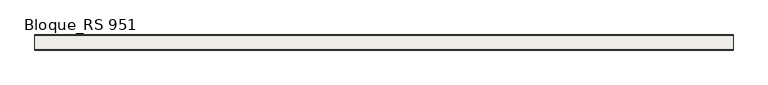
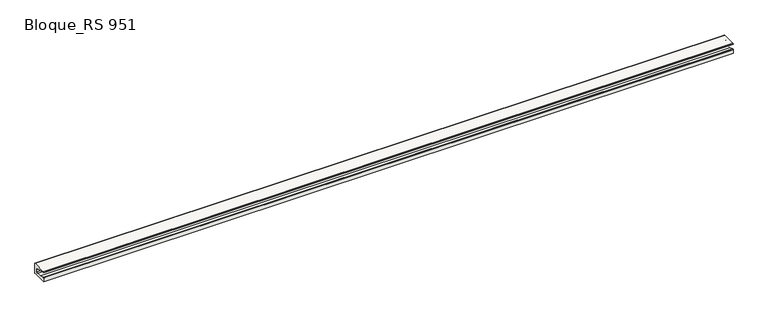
"""IFC4 building model written with IfcOpenShell, lengths in millimetres: slab geometry, ROSA GRES_RS 951 : Bloque_RS 951."""

import ifcopenshell
import ifcopenshell.guid

model = None  # the IFC model being written
_history = None  # IfcOwnerHistory: only IFC2X3 demands one
_inside = {}  # id of a spatial element -> (the spatial element, [elements in it])
_under = {}  # id of a project, library or spatial element -> (it, [spatial elements below it])
_declared = {}  # id of a project -> (the project, [libraries it declares])
_typed = {}  # id of a type object -> (the type object, [elements of that type])
_made_of = {}  # id of a material, layer set ... -> (it, [elements and type objects made of it])


def new_model(schema):
    """Start an empty IFC model of exactly this schema.

    Asked for "IFC4X3", IfcOpenShell would pick the latest addendum, in which some entities
    have other attributes; the version numbers below select the first issue.
    IFC2X3 requires an IfcOwnerHistory on every rooted entity: one is made here for all.
    """
    global model, _history
    if schema == "IFC4X3":
        model = ifcopenshell.file(schema_version=(4, 3, 0, 0))
    else:
        model = ifcopenshell.file(schema=schema)
    _inside.clear()
    _under.clear()
    _declared.clear()
    _typed.clear()
    _made_of.clear()
    _history = None
    if model.schema == "IFC2X3":
        org = make("IfcOrganization", Name="unknown")
        user = make(
            "IfcPersonAndOrganization",
            ThePerson=make("IfcPerson", FamilyName="unknown"),
            TheOrganization=org,
        )
        app = make(
            "IfcApplication",
            ApplicationDeveloper=org,
            Version="unknown",
            ApplicationFullName="unknown",
            ApplicationIdentifier="unknown",
        )
        _history = make(
            "IfcOwnerHistory",
            OwningUser=user,
            OwningApplication=app,
            ChangeAction="ADDED",
            CreationDate=0,
        )
    return model


def make(cls, **values):
    """One entity of the class cls with the attributes given. An attribute that is None is left unset."""
    return model.create_entity(
        cls, **{name: value for name, value in values.items() if value is not None}
    )


def rooted(cls, **values):
    """An entity with a GlobalId (a new one), such as an element, a storey or a relation."""
    return make(cls, GlobalId=ifcopenshell.guid.new(), OwnerHistory=_history, **values)


def si_unit(unit_type, name, prefix=None):
    """IfcSIUnit, for example si_unit("LENGTHUNIT", "METRE", prefix="MILLI")."""
    return make("IfcSIUnit", UnitType=unit_type, Prefix=prefix, Name=name)


def assignment(units):
    """IfcUnitAssignment: the units of a project."""
    return None if units is None else make("IfcUnitAssignment", Units=units)


def point(xyz):
    """IfcCartesianPoint."""
    return None if xyz is None else make("IfcCartesianPoint", Coordinates=xyz)


def direction(xyz):
    """IfcDirection."""
    return None if xyz is None else make("IfcDirection", DirectionRatios=xyz)


def frame(location, z_axis=None, x_axis=None):
    """IfcAxis2Placement3D, a coordinate frame: its origin and axes. An axis left out is left unset."""
    return make(
        "IfcAxis2Placement3D",
        Location=point(location),
        Axis=direction(z_axis),
        RefDirection=direction(x_axis),
    )


def frame_2d(location, x_axis=None):
    """IfcAxis2Placement2D, a coordinate frame in the plane: its origin and x axis."""
    return make(
        "IfcAxis2Placement2D", Location=point(location), RefDirection=direction(x_axis)
    )


def origin():
    """The frame at (0, 0, 0) with its axes left unset."""
    return frame((0.0, 0.0, 0.0))


def place(relative_to, where):
    """IfcLocalPlacement: puts the frame where relative to a parent placement (None: the world)."""
    return make(
        "IfcLocalPlacement", PlacementRelTo=relative_to, RelativePlacement=where
    )


def context(
    kind, dimensions, precision=None, world=None, true_north=None, identifier=None
):
    """IfcGeometricRepresentationContext, for example the 3D "Model" context."""
    return make(
        "IfcGeometricRepresentationContext",
        ContextIdentifier=identifier,
        ContextType=kind,
        CoordinateSpaceDimension=dimensions,
        Precision=precision,
        WorldCoordinateSystem=world,
        TrueNorth=true_north,
    )


def project(units=None, contexts=None):
    """IfcProject with its units and contexts."""
    return rooted(
        "IfcProject",
        Name="project",
        RepresentationContexts=contexts,
        UnitsInContext=assignment(units),
    )


def spatial(cls, under=None, at=None, **own):
    """A site, building, storey or space (cls), placed at a placement, below another one or the project."""
    s = rooted(cls, ObjectPlacement=at, **own)
    if under is not None:
        _under.setdefault(under.id(), (under, []))[1].append(s)
    return s


def polyline(points):
    """IfcPolyline through the points."""
    return make("IfcPolyline", Points=[point(p) for p in points])


def circle_curve(where, radius):
    """IfcCircle in the frame where."""
    return make("IfcCircle", Position=where, Radius=radius)


def trimmed(basis, trim1, trim2, sense, master):
    """IfcTrimmedCurve: the piece of a basis curve between two trims."""
    return make(
        "IfcTrimmedCurve",
        BasisCurve=basis,
        Trim1=trim1,
        Trim2=trim2,
        SenseAgreement=sense,
        MasterRepresentation=master,
    )


def segment(curve, same_sense, transition):
    """IfcCompositeCurveSegment."""
    return make(
        "IfcCompositeCurveSegment",
        Transition=transition,
        SameSense=same_sense,
        ParentCurve=curve,
    )


def composite_curve(segments, self_intersect=None):
    """IfcCompositeCurve: segments joined end to end."""
    return make("IfcCompositeCurve", Segments=segments, SelfIntersect=self_intersect)


def outline(outer, holes=None, kind="AREA"):
    """IfcArbitraryClosedProfileDef: a profile drawn as a closed curve; with holes, ...WithVoids."""
    if holes is None:
        return make("IfcArbitraryClosedProfileDef", ProfileType=kind, OuterCurve=outer)
    return make(
        "IfcArbitraryProfileDefWithVoids",
        ProfileType=kind,
        OuterCurve=outer,
        InnerCurves=holes,
    )


def extrude(swept, where, along, depth):
    """IfcExtrudedAreaSolid: the profile swept, set in the frame where, extruded along a direction by depth."""
    return make(
        "IfcExtrudedAreaSolid",
        SweptArea=swept,
        Position=where,
        ExtrudedDirection=direction(along),
        Depth=depth,
    )


def shape(context_of_items, identifier, shape_type, items):
    """IfcShapeRepresentation: the items that make up one representation, for example the "Body"."""
    return make(
        "IfcShapeRepresentation",
        ContextOfItems=context_of_items,
        RepresentationIdentifier=identifier,
        RepresentationType=shape_type,
        Items=items,
    )


def source(mapping_origin, context_of_items, identifier, shape_type, items):
    """IfcRepresentationMap: a shape defined once, which mapped items show again and again."""
    return make(
        "IfcRepresentationMap",
        MappingOrigin=mapping_origin,
        MappedRepresentation=shape(context_of_items, identifier, shape_type, items),
    )


def transform(
    local_origin,
    x_axis=None,
    y_axis=None,
    z_axis=None,
    scale=None,
    scale2=None,
    scale3=None,
    uniform=True,
):
    """IfcCartesianTransformationOperator3D, or its non-uniform kind. x_axis, y_axis, z_axis: its Axis1, 2, 3."""
    if uniform:
        return make(
            "IfcCartesianTransformationOperator3D",
            Axis1=direction(x_axis),
            Axis2=direction(y_axis),
            LocalOrigin=point(local_origin),
            Scale=scale,
            Axis3=direction(z_axis),
        )
    return make(
        "IfcCartesianTransformationOperator3DnonUniform",
        Axis1=direction(x_axis),
        Axis2=direction(y_axis),
        LocalOrigin=point(local_origin),
        Scale=scale,
        Axis3=direction(z_axis),
        Scale2=scale2,
        Scale3=scale3,
    )


def mapped(mapping_source, mapping_target):
    """IfcMappedItem: shows the shape of a source again, moved by a transform."""
    return make(
        "IfcMappedItem", MappingSource=mapping_source, MappingTarget=mapping_target
    )


def made_of(thing, what):
    """Note that an element or type object is made of a material, layer set ...; save() writes the relation."""
    if what is not None:
        _made_of.setdefault(what.id(), (what, []))[1].append(thing)
    return thing


def element(
    cls,
    number,
    at=None,
    inside=None,
    cuts=None,
    type_object=None,
    material=None,
    context=None,
    identifier="Body",
    shape_type=None,
    held_by="IfcProductDefinitionShape",
    body=None,
    shapes=None,
    **own,
):
    """One element of the class cls, such as IfcWall. Its Tag is "e" and its number.

    at: its placement. inside: the storey or other place that contains it. cuts: it is an
    opening in that element (IfcRelVoidsElement). A single representation is given by context,
    identifier, shape_type and body (its items); several are given by shapes. held_by: the class
    of the entity that holds the representations. save() writes the other relations.
    """
    e = rooted(cls, Tag="e%d" % number, ObjectPlacement=at, **own)
    if body is not None:
        shapes = [shape(context, identifier, shape_type, body)]
    if shapes is not None:
        e.Representation = make(held_by, Representations=shapes)
    if inside is not None:
        _inside.setdefault(inside.id(), (inside, []))[1].append(e)
    if cuts is not None:
        rooted(
            "IfcRelVoidsElement", RelatingBuildingElement=cuts, RelatedOpeningElement=e
        )
    if type_object is not None:
        _typed.setdefault(type_object.id(), (type_object, []))[1].append(e)
    return made_of(e, material)


def aggregate(whole, parts):
    """IfcRelAggregates: a whole, such as a stair, and the parts it consists of."""
    return rooted("IfcRelAggregates", RelatingObject=whole, RelatedObjects=parts)


def save(model, path):
    """Write the relations noted so far, then the file.

    IfcRelAggregates (storeys below a building ...), IfcRelContainedInSpatialStructure (elements
    in a storey), IfcRelDefinesByType, IfcRelAssociatesMaterial and IfcRelDeclares: one each for
    every whole, place, type object, material and project.
    """
    for whole, parts in _under.values():
        aggregate(whole, parts)
    for where, things in _inside.values():
        rooted(
            "IfcRelContainedInSpatialStructure",
            RelatedElements=things,
            RelatingStructure=where,
        )
    for kind, things in _typed.values():
        rooted("IfcRelDefinesByType", RelatedObjects=things, RelatingType=kind)
    for what, things in _made_of.values():
        rooted("IfcRelAssociatesMaterial", RelatedObjects=things, RelatingMaterial=what)
    for by, libraries in _declared.values():
        rooted("IfcRelDeclares", RelatingContext=by, RelatedDefinitions=libraries)
    model.write(path)


def bloque_rs_951_757072f9(model_context):
    return source(origin(), model_context, "Body", "SweptSolid", [
        extrude(outline(composite_curve([segment(polyline([(20.0, 10.0), (20.0, 90.0094288)]), True, "CONTINUOUS"), segment(trimmed(circle_curve(frame_2d((25.0, 90.0094288)), 5.0), [point((20.0, 90.0094288))], [point((25.0, 95.0094288))], False, "CARTESIAN"), True, "CONTINUOUS"), segment(polyline([(25.0, 95.0094288), (38.2035251, 95.0094288), (141.2759641, 60.0838698), (225.0599333, 60.0838698)]), True, "CONTINUOUS"), segment(trimmed(circle_curve(frame_2d((225.2461128, 84.8382752)), 24.7551055), [point((225.0599333, 60.0838698))], [point((250.0, 85.0838698))], True, "CARTESIAN"), True, "CONTINUOUS"), segment(polyline([(250.0, 85.0838698), (250.0, 128.9393377)]), True, "CONTINUOUS"), segment(trimmed(circle_curve(frame_2d((225.2461128, 129.1849323)), 24.7551055), [point((250.0, 128.9393377))], [point((231.9063097, 153.0272691))], True, "CARTESIAN"), True, "CONTINUOUS"), segment(polyline([(231.9063097, 153.0272691), (141.4794893, 178.287395), (19.9999903, 200.0838698), (19.9999903, 210.2775772)]), True, "CONTINUOUS"), segment(trimmed(circle_curve(frame_2d((27.9999903, 210.2775772)), 8.0), [point((19.9999903, 210.2775772))], [point((27.9999903, 218.2775772))], False, "CARTESIAN"), True, "CONTINUOUS"), segment(polyline([(27.9999903, 218.2775772), (311.9003845, 218.2775772)]), True, "CONTINUOUS"), segment(trimmed(circle_curve(frame_2d((312.2133333, 213.297208)), 4.9901918), [point((311.9003845, 218.2775772))], [point((317.2035155, 213.2873902))], False, "CARTESIAN"), True, "CONTINUOUS"), segment(polyline([(317.2035155, 213.2873902), (317.2035155, 20.0)]), True, "CONTINUOUS"), segment(trimmed(circle_curve(frame_2d((307.2035155, 20.0)), 10.0), [point((317.2035155, 20.0))], [point((307.2035155, 10.0))], False, "CARTESIAN"), True, "CONTINUOUS"), segment(polyline([(307.2035155, 10.0), (20.0, 10.0)]), True, "CONTINUOUS")], self_intersect=False)), frame((0.0, 0.0, 0.0), z_axis=(1.0, 0.0, 0.0), x_axis=(0.0, 1.0, 0.0)), (0.0, 0.0, 1.0), 13675.0996155),
    ])


if __name__ == "__main__":
    model = new_model("IFC4")
    model_context = context("Model", 3, world=origin())
    ifc_project = project(units=[si_unit("LENGTHUNIT", "METRE", prefix="MILLI")], contexts=[model_context])
    site = spatial("IfcSite", under=ifc_project)
    building = spatial("IfcBuilding", under=site)
    placement = place(None, origin())
    bloque_rs_951_shape = bloque_rs_951_757072f9(model_context)
    element("IfcSlab", 1, ObjectType="ROSA GRES_RS 951 : Bloque_RS 951", at=placement, inside=building, context=model_context, shape_type="MappedRepresentation", body=[
        mapped(bloque_rs_951_shape, transform((0.0, 0.0, 0.0), x_axis=(1.0, 0.0, 0.0), y_axis=(0.0, 1.0, 0.0), z_axis=(0.0, 0.0, 1.0))),
    ])
    save(model, "model.ifc")
